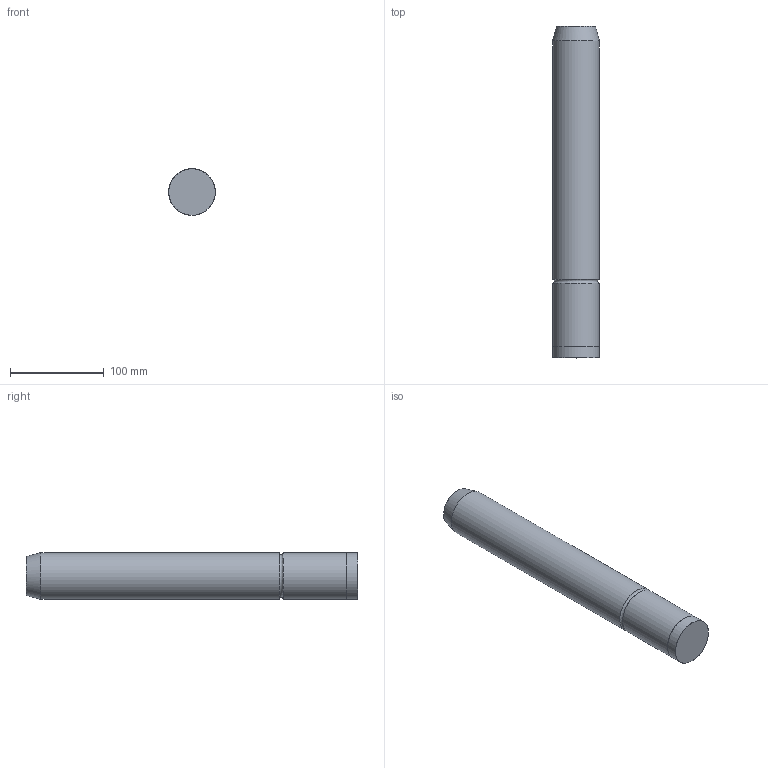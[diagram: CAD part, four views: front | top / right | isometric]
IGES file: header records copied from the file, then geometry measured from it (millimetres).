
Start section: Missler Software BP 521, 31674 Labege Cedex, France Tel   : +33 (0)5 61 00 03 00 Fax   : +33 (0)5 61 00 03 03 Email : sup.topsolid@topsolid.com
Global section: file name: C:\Documents and Settings\EXPER\Desktop\D12\D12_50355.igs; native system: TopSolid v605250 Missler Software; preprocessor: IGES preprocessor v100000; date: 030203.144358; units: millimetre
Bounding box: 50 x 355 x 50 mm (x, y, z)
Surface area: 59361.7 mm2 (no closed solid volume)
Topology: 0 solids, 0 shells, 8 faces, 143 edges, 138 vertices
Faces by surface type: bspline 8
